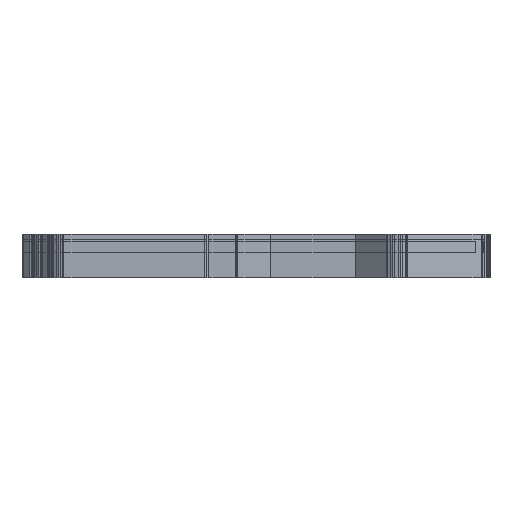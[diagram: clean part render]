
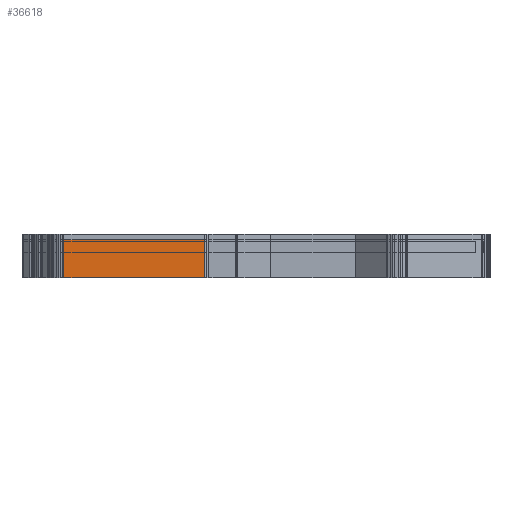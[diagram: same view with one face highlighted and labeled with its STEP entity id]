
A CAD part, left-side view. The second image highlights one B-rep face of the part: STEP entity #36618.
In plain terms, the highlighted planar face has unit normal (-1, 0, 0).
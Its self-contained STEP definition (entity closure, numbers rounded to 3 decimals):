
#22201 = PLANE('',#22202);
#22202 = AXIS2_PLACEMENT_3D('',#22203,#22204,#22205);
#22203 = CARTESIAN_POINT('',(245.936,-53.209,3.5));
#22204 = DIRECTION('',(0.,0.,1.));
#22205 = DIRECTION('',(1.,0.,-0.));
#22255 = PLANE('',#22256);
#22256 = AXIS2_PLACEMENT_3D('',#22257,#22258,#22259);
#22257 = CARTESIAN_POINT('',(245.936,-53.209,-6.6));
#22258 = DIRECTION('',(0.,0.,1.));
#22259 = DIRECTION('',(1.,0.,-0.));
#26368 = VERTEX_POINT('',#26369);
#26369 = CARTESIAN_POINT('',(176.62,-4.864,-6.6));
#26383 = PLANE('',#26384);
#26384 = AXIS2_PLACEMENT_3D('',#26385,#26386,#26387);
#26385 = CARTESIAN_POINT('',(176.672,-4.602,-6.6));
#26386 = DIRECTION('',(0.981,-0.195,0.));
#26387 = DIRECTION('',(-0.195,-0.981,0.));
#26395 = EDGE_CURVE('',#26368,#26396,#26398,.T.);
#26396 = VERTEX_POINT('',#26397);
#26397 = CARTESIAN_POINT('',(176.62,-42.047,-6.6));
#26398 = SURFACE_CURVE('',#26399,(#26403,#26410),.PCURVE_S1.);
#26399 = LINE('',#26400,#26401);
#26400 = CARTESIAN_POINT('',(176.62,-4.864,-6.6));
#26401 = VECTOR('',#26402,1.);
#26402 = DIRECTION('',(0.,-1.,0.));
#26403 = PCURVE('',#22255,#26404);
#26404 = DEFINITIONAL_REPRESENTATION('',(#26405),#26409);
#26405 = LINE('',#26406,#26407);
#26406 = CARTESIAN_POINT('',(-69.316,48.345));
#26407 = VECTOR('',#26408,1.);
#26408 = DIRECTION('',(0.,-1.));
#26409 = ( GEOMETRIC_REPRESENTATION_CONTEXT(2) 
PARAMETRIC_REPRESENTATION_CONTEXT() REPRESENTATION_CONTEXT('2D SPACE',''
  ) );
#26410 = PCURVE('',#26411,#26416);
#26411 = PLANE('',#26412);
#26412 = AXIS2_PLACEMENT_3D('',#26413,#26414,#26415);
#26413 = CARTESIAN_POINT('',(176.62,-4.864,-6.6));
#26414 = DIRECTION('',(1.,0.,-0.));
#26415 = DIRECTION('',(0.,-1.,0.));
#26416 = DEFINITIONAL_REPRESENTATION('',(#26417),#26421);
#26417 = LINE('',#26418,#26419);
#26418 = CARTESIAN_POINT('',(0.,0.));
#26419 = VECTOR('',#26420,1.);
#26420 = DIRECTION('',(1.,0.));
#26421 = ( GEOMETRIC_REPRESENTATION_CONTEXT(2) 
PARAMETRIC_REPRESENTATION_CONTEXT() REPRESENTATION_CONTEXT('2D SPACE',''
  ) );
#26439 = PLANE('',#26440);
#26440 = AXIS2_PLACEMENT_3D('',#26441,#26442,#26443);
#26441 = CARTESIAN_POINT('',(176.62,-42.047,-6.6));
#26442 = DIRECTION('',(0.925,0.381,-0.));
#26443 = DIRECTION('',(0.381,-0.925,0.));
#30210 = VERTEX_POINT('',#30211);
#30211 = CARTESIAN_POINT('',(176.62,-4.864,3.5));
#30232 = EDGE_CURVE('',#30210,#30233,#30235,.T.);
#30233 = VERTEX_POINT('',#30234);
#30234 = CARTESIAN_POINT('',(176.62,-42.047,3.5));
#30235 = SURFACE_CURVE('',#30236,(#30240,#30247),.PCURVE_S1.);
#30236 = LINE('',#30237,#30238);
#30237 = CARTESIAN_POINT('',(176.62,-4.864,3.5));
#30238 = VECTOR('',#30239,1.);
#30239 = DIRECTION('',(0.,-1.,0.));
#30240 = PCURVE('',#22201,#30241);
#30241 = DEFINITIONAL_REPRESENTATION('',(#30242),#30246);
#30242 = LINE('',#30243,#30244);
#30243 = CARTESIAN_POINT('',(-69.316,48.345));
#30244 = VECTOR('',#30245,1.);
#30245 = DIRECTION('',(0.,-1.));
#30246 = ( GEOMETRIC_REPRESENTATION_CONTEXT(2) 
PARAMETRIC_REPRESENTATION_CONTEXT() REPRESENTATION_CONTEXT('2D SPACE',''
  ) );
#30247 = PCURVE('',#26411,#30248);
#30248 = DEFINITIONAL_REPRESENTATION('',(#30249),#30253);
#30249 = LINE('',#30250,#30251);
#30250 = CARTESIAN_POINT('',(0.,-10.1));
#30251 = VECTOR('',#30252,1.);
#30252 = DIRECTION('',(1.,0.));
#30253 = ( GEOMETRIC_REPRESENTATION_CONTEXT(2) 
PARAMETRIC_REPRESENTATION_CONTEXT() REPRESENTATION_CONTEXT('2D SPACE',''
  ) );
#36568 = EDGE_CURVE('',#26396,#30233,#36569,.T.);
#36569 = SURFACE_CURVE('',#36570,(#36574,#36581),.PCURVE_S1.);
#36570 = LINE('',#36571,#36572);
#36571 = CARTESIAN_POINT('',(176.62,-42.047,-6.6));
#36572 = VECTOR('',#36573,1.);
#36573 = DIRECTION('',(0.,0.,1.));
#36574 = PCURVE('',#26439,#36575);
#36575 = DEFINITIONAL_REPRESENTATION('',(#36576),#36580);
#36576 = LINE('',#36577,#36578);
#36577 = CARTESIAN_POINT('',(0.,0.));
#36578 = VECTOR('',#36579,1.);
#36579 = DIRECTION('',(0.,-1.));
#36580 = ( GEOMETRIC_REPRESENTATION_CONTEXT(2) 
PARAMETRIC_REPRESENTATION_CONTEXT() REPRESENTATION_CONTEXT('2D SPACE',''
  ) );
#36581 = PCURVE('',#26411,#36582);
#36582 = DEFINITIONAL_REPRESENTATION('',(#36583),#36587);
#36583 = LINE('',#36584,#36585);
#36584 = CARTESIAN_POINT('',(37.183,0.));
#36585 = VECTOR('',#36586,1.);
#36586 = DIRECTION('',(0.,-1.));
#36587 = ( GEOMETRIC_REPRESENTATION_CONTEXT(2) 
PARAMETRIC_REPRESENTATION_CONTEXT() REPRESENTATION_CONTEXT('2D SPACE',''
  ) );
#36618 = ADVANCED_FACE('',(#36619),#26411,.F.);
#36619 = FACE_BOUND('',#36620,.F.);
#36620 = EDGE_LOOP('',(#36621,#36642,#36643,#36644));
#36621 = ORIENTED_EDGE('',*,*,#36622,.T.);
#36622 = EDGE_CURVE('',#26368,#30210,#36623,.T.);
#36623 = SURFACE_CURVE('',#36624,(#36628,#36635),.PCURVE_S1.);
#36624 = LINE('',#36625,#36626);
#36625 = CARTESIAN_POINT('',(176.62,-4.864,-6.6));
#36626 = VECTOR('',#36627,1.);
#36627 = DIRECTION('',(0.,0.,1.));
#36628 = PCURVE('',#26411,#36629);
#36629 = DEFINITIONAL_REPRESENTATION('',(#36630),#36634);
#36630 = LINE('',#36631,#36632);
#36631 = CARTESIAN_POINT('',(0.,0.));
#36632 = VECTOR('',#36633,1.);
#36633 = DIRECTION('',(0.,-1.));
#36634 = ( GEOMETRIC_REPRESENTATION_CONTEXT(2) 
PARAMETRIC_REPRESENTATION_CONTEXT() REPRESENTATION_CONTEXT('2D SPACE',''
  ) );
#36635 = PCURVE('',#26383,#36636);
#36636 = DEFINITIONAL_REPRESENTATION('',(#36637),#36641);
#36637 = LINE('',#36638,#36639);
#36638 = CARTESIAN_POINT('',(0.267,0.));
#36639 = VECTOR('',#36640,1.);
#36640 = DIRECTION('',(0.,-1.));
#36641 = ( GEOMETRIC_REPRESENTATION_CONTEXT(2) 
PARAMETRIC_REPRESENTATION_CONTEXT() REPRESENTATION_CONTEXT('2D SPACE',''
  ) );
#36642 = ORIENTED_EDGE('',*,*,#30232,.T.);
#36643 = ORIENTED_EDGE('',*,*,#36568,.F.);
#36644 = ORIENTED_EDGE('',*,*,#26395,.F.);
